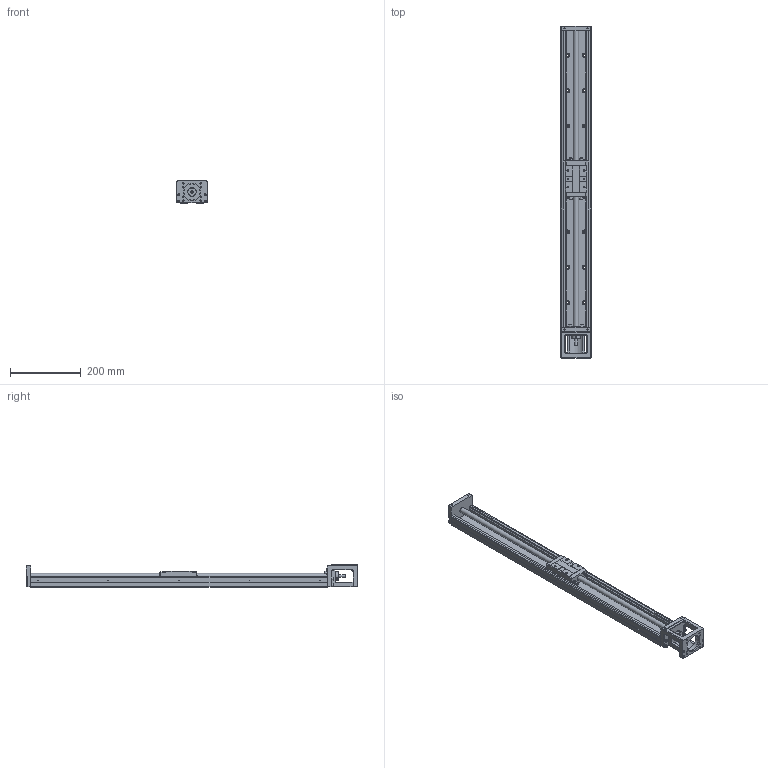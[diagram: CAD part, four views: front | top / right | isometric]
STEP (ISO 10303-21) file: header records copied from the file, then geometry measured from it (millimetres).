
FILE_DESCRIPTION(/* description */ (''),/* implementation_level */ '2;1');
FILE_NAME(/* name */ 'FKL80E840 05(10.16)C7.stp',/* time_stamp */ '2018-12-26T09:47:22+08:00',/* author */ (''),/* organization */ (''),/* preprocessor_version */ 'ST-DEVELOPER v16',/* originating_system */ 'SIEMENS PLM Software NX 10.0',/* authorisation */ '');
FILE_SCHEMA (('AUTOMOTIVE_DESIGN { 1 0 10303 214 3 1 1 1 }'));
Length unit declared in the file: millimetre
Products named in the file (3): 滑块.KK86-A1; 轨道.KK86-840; FKL80E840 05(10.16)C7
Assembly tree (2 placements, depth 2):
  FKL80E840 05(10.16)C7
    轨道.KK86-840
    滑块.KK86-A1
Bounding box: 86 x 940 x 64 mm (x, y, z)
Volume: 1638810.6 mm3; surface area: 359170.6 mm2
Topology: 2 solids, 2 shells, 536 faces, 1372 edges, 901 vertices
Faces by surface type: plane 309, cylinder 181, torus 20, cone 17, sphere 9
Full cylindrical faces by diameter (mm): 2.05 x10, 2.15 x2, 3.3 x9, 4.2 x4, 4.5 x4, 5 x4, 5.5 x4, 6.5 x2, 6.6 x16, 7.5 x8, 8 x5, 8.5 x8, 11 x16, 15 x2, 19 x1, 46 x1, 50 x1
Entity records: 15482 total; most frequent: CARTESIAN_POINT 2721, DIRECTION 2617, ORIENTED_EDGE 2326, EDGE_CURVE 1163, AXIS2_PLACEMENT_3D 944, VERTEX_POINT 815, EDGE_LOOP 770, LINE 729
